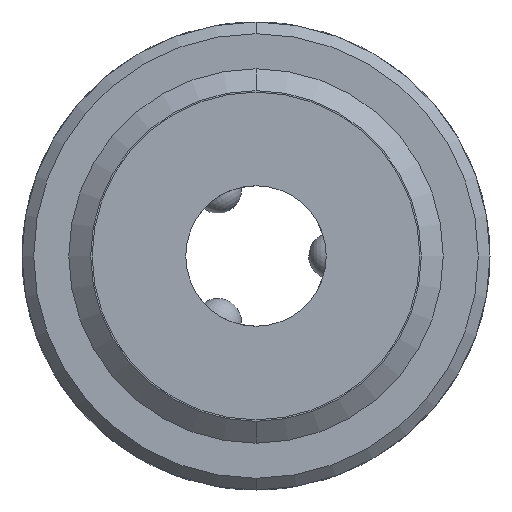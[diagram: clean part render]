
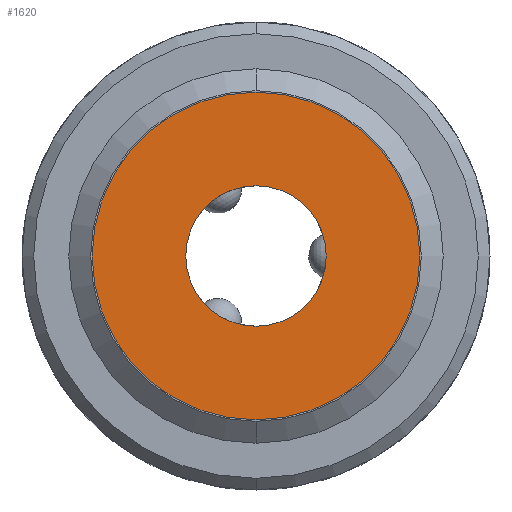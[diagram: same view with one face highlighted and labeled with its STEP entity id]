
A CAD part, front view. The second image highlights one B-rep face of the part: STEP entity #1620.
In plain terms, the highlighted planar face has unit normal (0, -1, 0).
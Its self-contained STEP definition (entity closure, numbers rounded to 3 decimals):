
#90 = CARTESIAN_POINT ( 'NONE',  ( 0., 0., 7. ) ) ;
#102 = DIRECTION ( 'NONE',  ( 0., -1., 0. ) ) ;
#143 = PLANE ( 'NONE',  #1328 ) ;
#163 = FACE_OUTER_BOUND ( 'NONE', #944, .T. ) ;
#180 = AXIS2_PLACEMENT_3D ( 'NONE', #1179, #1330, #1196 ) ;
#225 = EDGE_CURVE ( 'NONE', #1127, #876, #1071, .T. ) ;
#451 = DIRECTION ( 'NONE',  ( 0., 0., -1. ) ) ;
#453 = VERTEX_POINT ( 'NONE', #1407 ) ;
#654 = CIRCLE ( 'NONE', #978, 7. ) ;
#727 = CARTESIAN_POINT ( 'NONE',  ( 0., 0., 3. ) ) ;
#740 = EDGE_CURVE ( 'NONE', #1543, #453, #654, .T. ) ;
#771 = DIRECTION ( 'NONE',  ( 0., 0., -1. ) ) ;
#780 = CARTESIAN_POINT ( 'NONE',  ( 0., 0., 0. ) ) ;
#783 = EDGE_LOOP ( 'NONE', ( #1627, #1545 ) ) ;
#865 = CARTESIAN_POINT ( 'NONE',  ( 3., 0., 0. ) ) ;
#876 = VERTEX_POINT ( 'NONE', #1375 ) ;
#920 = ORIENTED_EDGE ( 'NONE', *, *, #1788, .T. ) ;
#944 = EDGE_LOOP ( 'NONE', ( #920, #1221 ) ) ;
#978 = AXIS2_PLACEMENT_3D ( 'NONE', #1633, #1180, #771 ) ;
#1071 = CIRCLE ( 'NONE', #1217, 3. ) ;
#1127 = VERTEX_POINT ( 'NONE', #727 ) ;
#1142 = DIRECTION ( 'NONE',  ( 0., -1., 0. ) ) ;
#1149 = CIRCLE ( 'NONE', #180, 7. ) ;
#1179 = CARTESIAN_POINT ( 'NONE',  ( 0., 0., 0. ) ) ;
#1180 = DIRECTION ( 'NONE',  ( 0., -1., 0. ) ) ;
#1196 = DIRECTION ( 'NONE',  ( 0., 0., -1. ) ) ;
#1217 = AXIS2_PLACEMENT_3D ( 'NONE', #1344, #102, #1322 ) ;
#1221 = ORIENTED_EDGE ( 'NONE', *, *, #740, .T. ) ;
#1302 = DIRECTION ( 'NONE',  ( 0., -1., 0. ) ) ;
#1322 = DIRECTION ( 'NONE',  ( 0., 0., -1. ) ) ;
#1328 = AXIS2_PLACEMENT_3D ( 'NONE', #865, #1142, #451 ) ;
#1330 = DIRECTION ( 'NONE',  ( 0., -1., 0. ) ) ;
#1344 = CARTESIAN_POINT ( 'NONE',  ( 0., 0., 0. ) ) ;
#1375 = CARTESIAN_POINT ( 'NONE',  ( 0., 0., -3. ) ) ;
#1407 = CARTESIAN_POINT ( 'NONE',  ( 0., 0., -7. ) ) ;
#1442 = AXIS2_PLACEMENT_3D ( 'NONE', #780, #1302, #1742 ) ;
#1543 = VERTEX_POINT ( 'NONE', #90 ) ;
#1545 = ORIENTED_EDGE ( 'NONE', *, *, #225, .F. ) ;
#1591 = CIRCLE ( 'NONE', #1442, 3. ) ;
#1620 = ADVANCED_FACE ( 'NONE', ( #163, #1719 ), #143, .T. ) ;
#1627 = ORIENTED_EDGE ( 'NONE', *, *, #1808, .F. ) ;
#1633 = CARTESIAN_POINT ( 'NONE',  ( 0., 0., 0. ) ) ;
#1719 = FACE_BOUND ( 'NONE', #783, .T. ) ;
#1742 = DIRECTION ( 'NONE',  ( 0., 0., -1. ) ) ;
#1788 = EDGE_CURVE ( 'NONE', #453, #1543, #1149, .T. ) ;
#1808 = EDGE_CURVE ( 'NONE', #876, #1127, #1591, .T. ) ;
